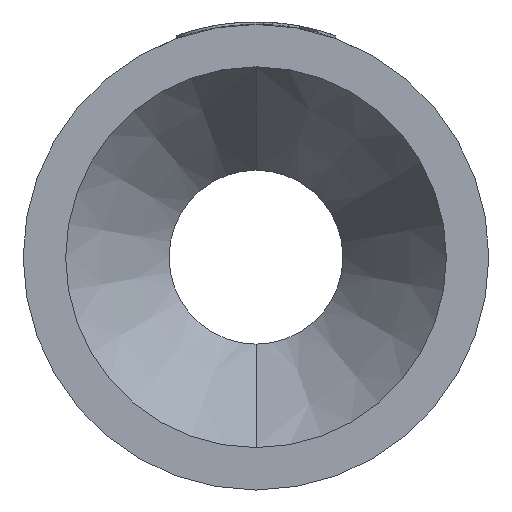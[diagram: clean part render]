
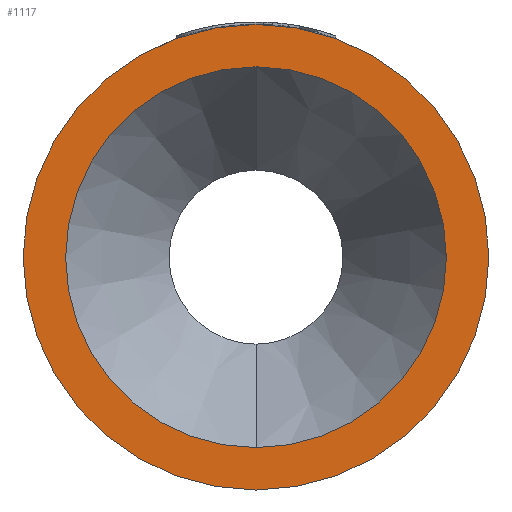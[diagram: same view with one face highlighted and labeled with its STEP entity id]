
A CAD part, left-side view. The second image highlights one B-rep face of the part: STEP entity #1117.
In plain terms, the highlighted planar face has unit normal (-1, 0, 0).
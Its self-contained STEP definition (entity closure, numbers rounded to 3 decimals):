
#56 = CIRCLE ( 'NONE', #617, 45. ) ;
#113 = CARTESIAN_POINT ( 'NONE',  ( 0., 0., 0. ) ) ;
#162 = CARTESIAN_POINT ( 'NONE',  ( 0., 0., 36.8 ) ) ;
#217 = CARTESIAN_POINT ( 'NONE',  ( 0., 0., -45. ) ) ;
#251 = CIRCLE ( 'NONE', #868, 36.8 ) ;
#328 = EDGE_LOOP ( 'NONE', ( #1446, #940 ) ) ;
#377 = DIRECTION ( 'NONE',  ( 0., 0., 1. ) ) ;
#411 = EDGE_LOOP ( 'NONE', ( #1389, #2371 ) ) ;
#450 = FACE_BOUND ( 'NONE', #411, .T. ) ;
#586 = DIRECTION ( 'NONE',  ( -1., 0., 0. ) ) ;
#617 = AXIS2_PLACEMENT_3D ( 'NONE', #716, #2577, #981 ) ;
#642 = VERTEX_POINT ( 'NONE', #217 ) ;
#716 = CARTESIAN_POINT ( 'NONE',  ( 0., 0., 0. ) ) ;
#754 = CIRCLE ( 'NONE', #1779, 45. ) ;
#868 = AXIS2_PLACEMENT_3D ( 'NONE', #1042, #2906, #1306 ) ;
#940 = ORIENTED_EDGE ( 'NONE', *, *, #1899, .T. ) ;
#968 = PLANE ( 'NONE',  #1077 ) ;
#981 = DIRECTION ( 'NONE',  ( 0., 0., 1. ) ) ;
#1007 = DIRECTION ( 'NONE',  ( 1., 0., 0. ) ) ;
#1042 = CARTESIAN_POINT ( 'NONE',  ( 0., 0., 0. ) ) ;
#1077 = AXIS2_PLACEMENT_3D ( 'NONE', #2601, #1007, #2869 ) ;
#1117 = ADVANCED_FACE ( 'NONE', ( #450, #2653 ), #968, .F. ) ;
#1159 = CARTESIAN_POINT ( 'NONE',  ( 0., 0., -36.8 ) ) ;
#1298 = EDGE_CURVE ( 'NONE', #1536, #2645, #251, .T. ) ;
#1306 = DIRECTION ( 'NONE',  ( 0., 0., 1. ) ) ;
#1376 = AXIS2_PLACEMENT_3D ( 'NONE', #113, #1958, #377 ) ;
#1389 = ORIENTED_EDGE ( 'NONE', *, *, #1746, .F. ) ;
#1446 = ORIENTED_EDGE ( 'NONE', *, *, #2181, .T. ) ;
#1536 = VERTEX_POINT ( 'NONE', #1159 ) ;
#1646 = VERTEX_POINT ( 'NONE', #1787 ) ;
#1746 = EDGE_CURVE ( 'NONE', #2645, #1536, #2040, .T. ) ;
#1779 = AXIS2_PLACEMENT_3D ( 'NONE', #2176, #586, #2435 ) ;
#1787 = CARTESIAN_POINT ( 'NONE',  ( 0., 0., 45. ) ) ;
#1899 = EDGE_CURVE ( 'NONE', #642, #1646, #56, .T. ) ;
#1958 = DIRECTION ( 'NONE',  ( -1., 0., 0. ) ) ;
#2040 = CIRCLE ( 'NONE', #1376, 36.8 ) ;
#2176 = CARTESIAN_POINT ( 'NONE',  ( 0., 0., 0. ) ) ;
#2181 = EDGE_CURVE ( 'NONE', #1646, #642, #754, .T. ) ;
#2371 = ORIENTED_EDGE ( 'NONE', *, *, #1298, .F. ) ;
#2435 = DIRECTION ( 'NONE',  ( 0., 0., 1. ) ) ;
#2577 = DIRECTION ( 'NONE',  ( -1., 0., 0. ) ) ;
#2601 = CARTESIAN_POINT ( 'NONE',  ( 0., 36.8, 0. ) ) ;
#2645 = VERTEX_POINT ( 'NONE', #162 ) ;
#2653 = FACE_OUTER_BOUND ( 'NONE', #328, .T. ) ;
#2869 = DIRECTION ( 'NONE',  ( 0., 0., -1. ) ) ;
#2906 = DIRECTION ( 'NONE',  ( -1., 0., 0. ) ) ;
